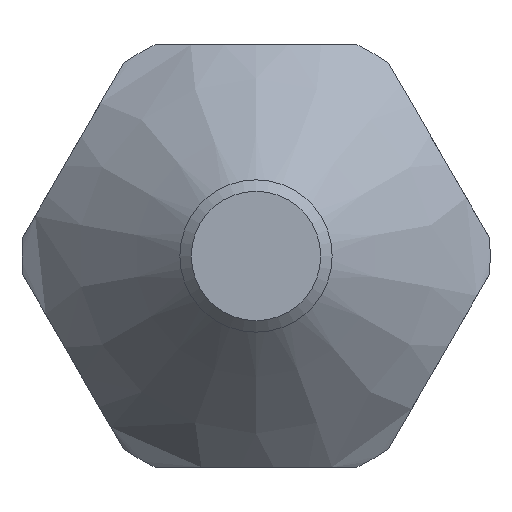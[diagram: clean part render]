
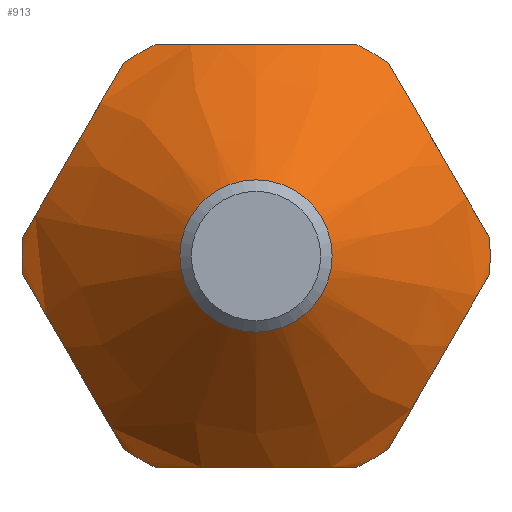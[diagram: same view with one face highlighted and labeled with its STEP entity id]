
A CAD part, left-side view. The second image highlights one B-rep face of the part: STEP entity #913.
In plain terms, the highlighted conical face has half-angle 45 degrees and reference radius 7.85 mm.
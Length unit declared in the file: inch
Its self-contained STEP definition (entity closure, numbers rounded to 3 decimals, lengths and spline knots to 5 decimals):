
#24=CONICAL_SURFACE('',#993,0.30906,0.785);
#36=CIRCLE('',#980,0.48425);
#38=CIRCLE('',#983,0.48425);
#39=CIRCLE('',#985,0.48425);
#42=CIRCLE('',#989,0.48425);
#43=CIRCLE('',#991,0.48425);
#45=CIRCLE('',#994,0.13386);
#46=CIRCLE('',#995,0.13386);
#47=CIRCLE('',#996,0.48425);
#140=FACE_OUTER_BOUND('',#189,.T.);
#189=EDGE_LOOP('',(#624,#625,#626,#627,#628,#629,#630,#631,#632,#633,#634,
#635,#636,#637,#638,#639,#640));
#247=LINE('',#1563,#277);
#277=VECTOR('',#1158,0.30906);
#309=(
BOUNDED_CURVE()
B_SPLINE_CURVE(2,(#1400,#1401,#1402),.UNSPECIFIED.,.F.,.F.)
B_SPLINE_CURVE_WITH_KNOTS((3,3),(0.,1.08665),.UNSPECIFIED.)
CURVE()
GEOMETRIC_REPRESENTATION_ITEM()
RATIONAL_B_SPLINE_CURVE((1.,1.108,1.))
REPRESENTATION_ITEM('')
);
#312=(
BOUNDED_CURVE()
B_SPLINE_CURVE(2,(#1427,#1428,#1429),.UNSPECIFIED.,.F.,.F.)
B_SPLINE_CURVE_WITH_KNOTS((3,3),(0.,1.08665),.UNSPECIFIED.)
CURVE()
GEOMETRIC_REPRESENTATION_ITEM()
RATIONAL_B_SPLINE_CURVE((1.,1.108,1.))
REPRESENTATION_ITEM('')
);
#315=(
BOUNDED_CURVE()
B_SPLINE_CURVE(2,(#1454,#1455,#1456),.UNSPECIFIED.,.F.,.F.)
B_SPLINE_CURVE_WITH_KNOTS((3,3),(0.,1.08665),.UNSPECIFIED.)
CURVE()
GEOMETRIC_REPRESENTATION_ITEM()
RATIONAL_B_SPLINE_CURVE((1.,1.108,1.))
REPRESENTATION_ITEM('')
);
#318=(
BOUNDED_CURVE()
B_SPLINE_CURVE(2,(#1481,#1482,#1483),.UNSPECIFIED.,.F.,.F.)
B_SPLINE_CURVE_WITH_KNOTS((3,3),(0.54332,1.08665),
 .UNSPECIFIED.)
CURVE()
GEOMETRIC_REPRESENTATION_ITEM()
RATIONAL_B_SPLINE_CURVE((1.054,1.054,1.))
REPRESENTATION_ITEM('')
);
#319=(
BOUNDED_CURVE()
B_SPLINE_CURVE(2,(#1485,#1486,#1487),.UNSPECIFIED.,.F.,.F.)
B_SPLINE_CURVE_WITH_KNOTS((3,3),(0.,0.54332),.UNSPECIFIED.)
CURVE()
GEOMETRIC_REPRESENTATION_ITEM()
RATIONAL_B_SPLINE_CURVE((1.,1.054,1.054))
REPRESENTATION_ITEM('')
);
#322=(
BOUNDED_CURVE()
B_SPLINE_CURVE(2,(#1512,#1513,#1514),.UNSPECIFIED.,.F.,.F.)
B_SPLINE_CURVE_WITH_KNOTS((3,3),(0.,1.08665),.UNSPECIFIED.)
CURVE()
GEOMETRIC_REPRESENTATION_ITEM()
RATIONAL_B_SPLINE_CURVE((1.,1.108,1.))
REPRESENTATION_ITEM('')
);
#325=(
BOUNDED_CURVE()
B_SPLINE_CURVE(2,(#1539,#1540,#1541),.UNSPECIFIED.,.F.,.F.)
B_SPLINE_CURVE_WITH_KNOTS((3,3),(0.,1.08665),.UNSPECIFIED.)
CURVE()
GEOMETRIC_REPRESENTATION_ITEM()
RATIONAL_B_SPLINE_CURVE((1.,1.108,1.))
REPRESENTATION_ITEM('')
);
#331=VERTEX_POINT('',#1397);
#332=VERTEX_POINT('',#1399);
#338=VERTEX_POINT('',#1424);
#339=VERTEX_POINT('',#1426);
#345=VERTEX_POINT('',#1451);
#346=VERTEX_POINT('',#1453);
#352=VERTEX_POINT('',#1478);
#353=VERTEX_POINT('',#1480);
#354=VERTEX_POINT('',#1484);
#360=VERTEX_POINT('',#1509);
#361=VERTEX_POINT('',#1511);
#367=VERTEX_POINT('',#1536);
#368=VERTEX_POINT('',#1538);
#369=VERTEX_POINT('',#1559);
#370=VERTEX_POINT('',#1560);
#430=EDGE_CURVE('',#332,#331,#309,.T.);
#437=EDGE_CURVE('',#339,#338,#312,.T.);
#444=EDGE_CURVE('',#346,#345,#315,.T.);
#451=EDGE_CURVE('',#353,#352,#318,.T.);
#452=EDGE_CURVE('',#354,#353,#319,.T.);
#459=EDGE_CURVE('',#361,#360,#322,.T.);
#466=EDGE_CURVE('',#368,#367,#325,.T.);
#469=EDGE_CURVE('',#345,#368,#36,.T.);
#471=EDGE_CURVE('',#338,#361,#38,.T.);
#472=EDGE_CURVE('',#360,#354,#39,.T.);
#475=EDGE_CURVE('',#331,#346,#42,.T.);
#476=EDGE_CURVE('',#367,#339,#43,.T.);
#478=EDGE_CURVE('',#369,#370,#45,.T.);
#479=EDGE_CURVE('',#370,#369,#46,.T.);
#480=EDGE_CURVE('',#370,#353,#247,.T.);
#481=EDGE_CURVE('',#352,#332,#47,.T.);
#624=ORIENTED_EDGE('',*,*,#478,.F.);
#625=ORIENTED_EDGE('',*,*,#479,.F.);
#626=ORIENTED_EDGE('',*,*,#480,.T.);
#627=ORIENTED_EDGE('',*,*,#451,.T.);
#628=ORIENTED_EDGE('',*,*,#481,.T.);
#629=ORIENTED_EDGE('',*,*,#430,.T.);
#630=ORIENTED_EDGE('',*,*,#475,.T.);
#631=ORIENTED_EDGE('',*,*,#444,.T.);
#632=ORIENTED_EDGE('',*,*,#469,.T.);
#633=ORIENTED_EDGE('',*,*,#466,.T.);
#634=ORIENTED_EDGE('',*,*,#476,.T.);
#635=ORIENTED_EDGE('',*,*,#437,.T.);
#636=ORIENTED_EDGE('',*,*,#471,.T.);
#637=ORIENTED_EDGE('',*,*,#459,.T.);
#638=ORIENTED_EDGE('',*,*,#472,.T.);
#639=ORIENTED_EDGE('',*,*,#452,.T.);
#640=ORIENTED_EDGE('',*,*,#480,.F.);
#913=ADVANCED_FACE('',(#140),#24,.T.);
#980=AXIS2_PLACEMENT_3D('',#1545,#1126,#1127);
#983=AXIS2_PLACEMENT_3D('',#1548,#1132,#1133);
#985=AXIS2_PLACEMENT_3D('',#1550,#1136,#1137);
#989=AXIS2_PLACEMENT_3D('',#1554,#1144,#1145);
#991=AXIS2_PLACEMENT_3D('',#1556,#1148,#1149);
#993=AXIS2_PLACEMENT_3D('',#1558,#1152,#1153);
#994=AXIS2_PLACEMENT_3D('',#1561,#1154,#1155);
#995=AXIS2_PLACEMENT_3D('',#1562,#1156,#1157);
#996=AXIS2_PLACEMENT_3D('',#1564,#1159,#1160);
#1126=DIRECTION('center_axis',(-1.,0.,0.));
#1127=DIRECTION('ref_axis',(0.,0.,-1.));
#1132=DIRECTION('center_axis',(-1.,0.,0.));
#1133=DIRECTION('ref_axis',(0.,0.,-1.));
#1136=DIRECTION('center_axis',(-1.,0.,0.));
#1137=DIRECTION('ref_axis',(0.,0.,-1.));
#1144=DIRECTION('center_axis',(-1.,0.,0.));
#1145=DIRECTION('ref_axis',(0.,0.,-1.));
#1148=DIRECTION('center_axis',(-1.,0.,0.));
#1149=DIRECTION('ref_axis',(0.,0.,-1.));
#1152=DIRECTION('center_axis',(1.,0.,0.));
#1153=DIRECTION('ref_axis',(0.,0.,-1.));
#1154=DIRECTION('center_axis',(-1.,0.,0.));
#1155=DIRECTION('ref_axis',(0.,0.,-1.));
#1156=DIRECTION('center_axis',(-1.,0.,0.));
#1157=DIRECTION('ref_axis',(0.,0.,-1.));
#1158=DIRECTION('',(0.707,0.,0.707));
#1159=DIRECTION('center_axis',(-1.,0.,0.));
#1160=DIRECTION('ref_axis',(0.,0.,-1.));
#1397=CARTESIAN_POINT('',(-1.24497,0.50403,0.21854));
#1399=CARTESIAN_POINT('',(-1.24497,0.29541,0.57989));
#1400=CARTESIAN_POINT('Ctrl Pts',(-1.24497,0.29541,0.57989));
#1401=CARTESIAN_POINT('Ctrl Pts',(-1.33485,0.39972,0.39921));
#1402=CARTESIAN_POINT('Ctrl Pts',(-1.24497,0.50403,0.21854));
#1424=CARTESIAN_POINT('',(-1.24497,-0.46151,0.14288));
#1426=CARTESIAN_POINT('',(-1.24497,-0.25289,-0.21847));
#1427=CARTESIAN_POINT('Ctrl Pts',(-1.24497,-0.25289,
-0.21847));
#1428=CARTESIAN_POINT('Ctrl Pts',(-1.33485,-0.3572,
-0.03779));
#1429=CARTESIAN_POINT('Ctrl Pts',(-1.24497,-0.46151,0.14288));
#1451=CARTESIAN_POINT('',(-1.24497,0.29541,-0.21847));
#1453=CARTESIAN_POINT('',(-1.24497,0.50403,0.14288));
#1454=CARTESIAN_POINT('Ctrl Pts',(-1.24497,0.50403,0.14288));
#1455=CARTESIAN_POINT('Ctrl Pts',(-1.33485,0.39972,-0.03779));
#1456=CARTESIAN_POINT('Ctrl Pts',(-1.24497,0.29541,-0.21847));
#1478=CARTESIAN_POINT('',(-1.24497,0.22989,0.61772));
#1480=CARTESIAN_POINT('',(-1.29222,0.02126,0.61772));
#1481=CARTESIAN_POINT('Ctrl Pts',(-1.29222,0.02126,
0.61772));
#1482=CARTESIAN_POINT('Ctrl Pts',(-1.29222,0.12022,0.61772));
#1483=CARTESIAN_POINT('Ctrl Pts',(-1.24497,0.22989,0.61772));
#1484=CARTESIAN_POINT('',(-1.24497,-0.18736,0.61772));
#1485=CARTESIAN_POINT('Ctrl Pts',(-1.24497,-0.18736,0.61772));
#1486=CARTESIAN_POINT('Ctrl Pts',(-1.29222,-0.0777,
0.61772));
#1487=CARTESIAN_POINT('Ctrl Pts',(-1.29222,0.02126,
0.61772));
#1509=CARTESIAN_POINT('',(-1.24497,-0.25289,0.57989));
#1511=CARTESIAN_POINT('',(-1.24497,-0.46151,0.21854));
#1512=CARTESIAN_POINT('Ctrl Pts',(-1.24497,-0.46151,0.21854));
#1513=CARTESIAN_POINT('Ctrl Pts',(-1.33485,-0.3572,
0.39921));
#1514=CARTESIAN_POINT('Ctrl Pts',(-1.24497,-0.25289,
0.57989));
#1536=CARTESIAN_POINT('',(-1.24497,-0.18736,-0.2563));
#1538=CARTESIAN_POINT('',(-1.24497,0.22989,-0.2563));
#1539=CARTESIAN_POINT('Ctrl Pts',(-1.24497,0.22989,-0.2563));
#1540=CARTESIAN_POINT('Ctrl Pts',(-1.33485,0.02126,
-0.2563));
#1541=CARTESIAN_POINT('Ctrl Pts',(-1.24497,-0.18736,
-0.2563));
#1545=CARTESIAN_POINT('Origin',(-1.24497,0.02126,0.18071));
#1548=CARTESIAN_POINT('Origin',(-1.24497,0.02126,0.18071));
#1550=CARTESIAN_POINT('Origin',(-1.24497,0.02126,0.18071));
#1554=CARTESIAN_POINT('Origin',(-1.24497,0.02126,0.18071));
#1556=CARTESIAN_POINT('Origin',(-1.24497,0.02126,0.18071));
#1558=CARTESIAN_POINT('Origin',(-1.42017,0.02126,0.18071));
#1559=CARTESIAN_POINT('',(-1.59536,0.02126,0.04685));
#1560=CARTESIAN_POINT('',(-1.59536,0.02126,0.31457));
#1561=CARTESIAN_POINT('Origin',(-1.59536,0.02126,0.18071));
#1562=CARTESIAN_POINT('Origin',(-1.59536,0.02126,0.18071));
#1563=CARTESIAN_POINT('',(-1.42017,0.02126,0.48976));
#1564=CARTESIAN_POINT('Origin',(-1.24497,0.02126,0.18071));
